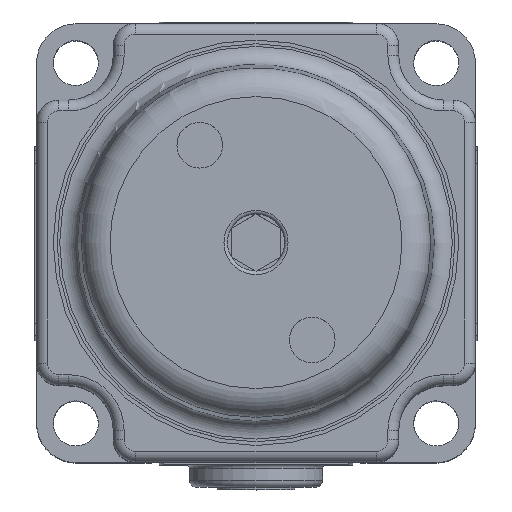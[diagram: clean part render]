
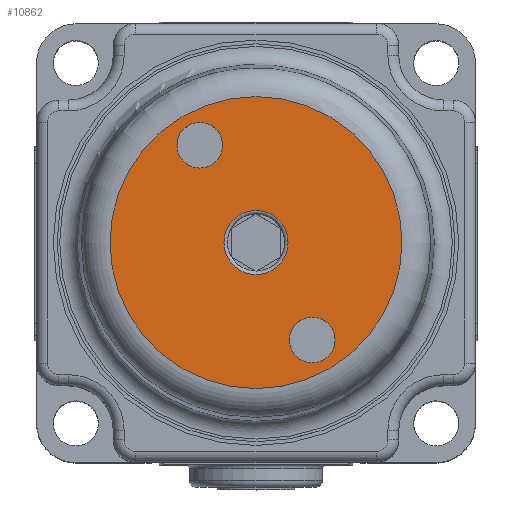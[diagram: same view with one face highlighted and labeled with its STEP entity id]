
A CAD part, top view. The second image highlights one B-rep face of the part: STEP entity #10862.
In plain terms, the highlighted planar face has unit normal (0, 0, 1).
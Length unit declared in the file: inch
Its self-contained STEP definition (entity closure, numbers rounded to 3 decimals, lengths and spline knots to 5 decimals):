
#116=FACE_BOUND('',#1768,.T.);
#117=FACE_BOUND('',#1769,.T.);
#118=FACE_BOUND('',#1770,.T.);
#1114=FACE_OUTER_BOUND('',#1767,.T.);
#1767=EDGE_LOOP('',(#8313,#8314));
#1768=EDGE_LOOP('',(#8315,#8316));
#1769=EDGE_LOOP('',(#8317,#8318));
#1770=EDGE_LOOP('',(#8319,#8320));
#3704=CIRCLE('',#11980,0.089);
#3709=CIRCLE('',#11985,0.089);
#3716=CIRCLE('',#11994,0.4051);
#3717=CIRCLE('',#11995,0.4051);
#3718=CIRCLE('',#11996,0.0635);
#3719=CIRCLE('',#11997,0.0635);
#3720=CIRCLE('',#11998,0.0635);
#3721=CIRCLE('',#11999,0.0635);
#4553=VERTEX_POINT('',#17898);
#4554=VERTEX_POINT('',#17899);
#4560=VERTEX_POINT('',#17920);
#4561=VERTEX_POINT('',#17921);
#4562=VERTEX_POINT('',#17924);
#4563=VERTEX_POINT('',#17925);
#4564=VERTEX_POINT('',#17928);
#4565=VERTEX_POINT('',#17929);
#5877=EDGE_CURVE('',#4553,#4554,#3704,.T.);
#5882=EDGE_CURVE('',#4554,#4553,#3709,.T.);
#5890=EDGE_CURVE('',#4560,#4561,#3716,.T.);
#5891=EDGE_CURVE('',#4561,#4560,#3717,.T.);
#5892=EDGE_CURVE('',#4562,#4563,#3718,.T.);
#5893=EDGE_CURVE('',#4563,#4562,#3719,.T.);
#5894=EDGE_CURVE('',#4564,#4565,#3720,.T.);
#5895=EDGE_CURVE('',#4565,#4564,#3721,.T.);
#8313=ORIENTED_EDGE('',*,*,#5890,.T.);
#8314=ORIENTED_EDGE('',*,*,#5891,.T.);
#8315=ORIENTED_EDGE('',*,*,#5892,.T.);
#8316=ORIENTED_EDGE('',*,*,#5893,.T.);
#8317=ORIENTED_EDGE('',*,*,#5894,.T.);
#8318=ORIENTED_EDGE('',*,*,#5895,.T.);
#8319=ORIENTED_EDGE('',*,*,#5877,.F.);
#8320=ORIENTED_EDGE('',*,*,#5882,.F.);
#9808=PLANE('',#11993);
#10862=ADVANCED_FACE('',(#1114,#116,#117,#118),#9808,.T.);
#11980=AXIS2_PLACEMENT_3D('',#17900,#14555,#14556);
#11985=AXIS2_PLACEMENT_3D('',#17908,#14565,#14566);
#11993=AXIS2_PLACEMENT_3D('',#17919,#14582,#14583);
#11994=AXIS2_PLACEMENT_3D('',#17922,#14584,#14585);
#11995=AXIS2_PLACEMENT_3D('',#17923,#14586,#14587);
#11996=AXIS2_PLACEMENT_3D('',#17926,#14588,#14589);
#11997=AXIS2_PLACEMENT_3D('',#17927,#14590,#14591);
#11998=AXIS2_PLACEMENT_3D('',#17930,#14592,#14593);
#11999=AXIS2_PLACEMENT_3D('',#17931,#14594,#14595);
#14555=DIRECTION('center_axis',(0.,0.,1.));
#14556=DIRECTION('ref_axis',(0.5,-0.866,0.));
#14565=DIRECTION('center_axis',(0.,0.,1.));
#14566=DIRECTION('ref_axis',(0.5,-0.866,0.));
#14582=DIRECTION('center_axis',(0.,0.,1.));
#14583=DIRECTION('ref_axis',(1.,0.,0.));
#14584=DIRECTION('center_axis',(0.,0.,1.));
#14585=DIRECTION('ref_axis',(-0.5,0.866,0.));
#14586=DIRECTION('center_axis',(0.,0.,1.));
#14587=DIRECTION('ref_axis',(-0.5,0.866,0.));
#14588=DIRECTION('center_axis',(0.,0.,
-1.));
#14589=DIRECTION('ref_axis',(0.414,0.91,0.));
#14590=DIRECTION('center_axis',(0.,0.,
-1.));
#14591=DIRECTION('ref_axis',(0.414,0.91,0.));
#14592=DIRECTION('center_axis',(0.,0.,
-1.));
#14593=DIRECTION('ref_axis',(0.414,0.91,0.));
#14594=DIRECTION('center_axis',(0.,0.,
-1.));
#14595=DIRECTION('ref_axis',(0.414,0.91,0.));
#17898=CARTESIAN_POINT('',(-0.38189,0.91754,1.21531));
#17899=CARTESIAN_POINT('',(-0.36997,0.87304,1.21531));
#17900=CARTESIAN_POINT('Origin',(-0.45897,0.87304,1.21531));
#17908=CARTESIAN_POINT('Origin',(-0.45897,0.87304,1.21531));
#17919=CARTESIAN_POINT('Origin',(-0.81014,0.67029,1.21531));
#17920=CARTESIAN_POINT('',(-0.10814,1.07559,1.21531));
#17921=CARTESIAN_POINT('',(-0.86408,0.87304,1.21531));
#17922=CARTESIAN_POINT('Origin',(-0.45897,0.87304,1.21531));
#17923=CARTESIAN_POINT('Origin',(-0.45897,0.87304,1.21531));
#17924=CARTESIAN_POINT('',(-0.55998,1.17499,1.21531));
#17925=CARTESIAN_POINT('',(-0.66996,1.11149,1.21531));
#17926=CARTESIAN_POINT('Origin',(-0.61497,1.14324,1.21531));
#17927=CARTESIAN_POINT('Origin',(-0.61497,1.14324,1.21531));
#17928=CARTESIAN_POINT('',(-0.24798,0.63459,1.21531));
#17929=CARTESIAN_POINT('',(-0.35796,0.57109,1.21531));
#17930=CARTESIAN_POINT('Origin',(-0.30297,0.60284,1.21531));
#17931=CARTESIAN_POINT('Origin',(-0.30297,0.60284,1.21531));
